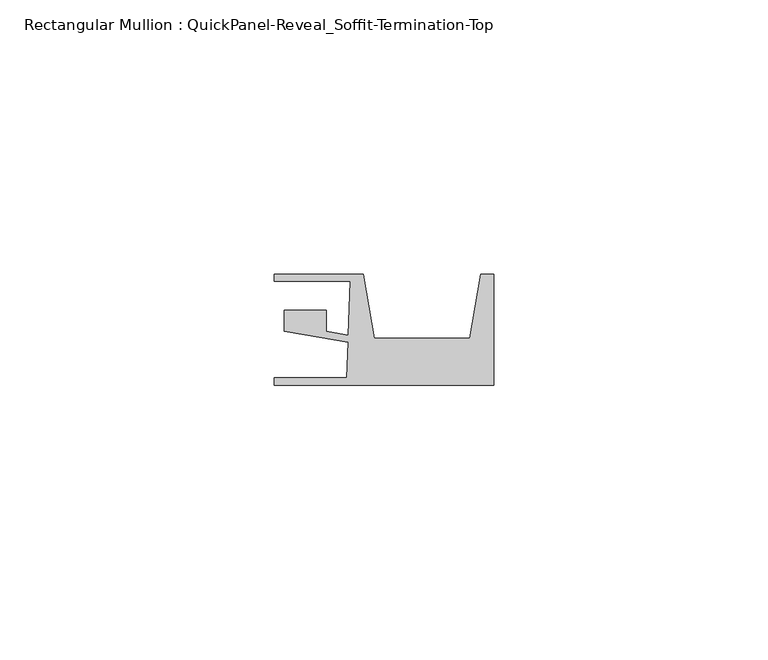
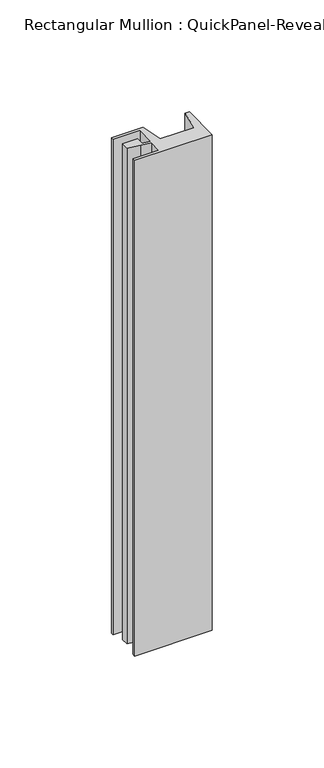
"""IFC4 building model written with IfcOpenShell, lengths in millimetres: member geometry, Rectangular Mullion : QuickPanel-Reveal_Soffit-Termination-Top."""

from ifc_helpers import new_model, si_unit, frame, origin, place, context, project, spatial, polyline, outline, extrude, source, transform, mapped, element, save


def rectangular_mullion_quickpanel_reveal_soffit_termination_top_08631cf9(model_context):
    return source(origin(), model_context, "Body", "SweptSolid", [
        extrude(outline(polyline([(-40.0272216, -8.095605), (-40.0272216, -6.6935423), (-26.7863089, -6.6935423), (-26.5595237, -0.1992641), (-31.8098046, 0.7008023), (-38.2451373, 1.8040245), (-38.2451373, 5.6493034), (-30.5003642, 5.6493034), (-30.5003642, 1.7648465), (-26.5147952, 1.0815922), (-26.1708682, 10.9303752), (-40.0272216, 10.9303752), (-40.0272216, 12.1803727), (-23.8142192, 12.1803727), (-21.8189903, 0.5417732), (-4.3518779, 0.5417732), (-2.3566489, 12.1803727), (0.0, 12.1803727), (0.0, -8.095605), (-40.0272216, -8.095605)])), frame((0.0, 0.0, -270.2913318), z_axis=(0.0, 0.0, 1.0), x_axis=(1.0, 0.0, 0.0)), (0.0, 0.0, 1.0), 270.2913318),
    ])


if __name__ == "__main__":
    model = new_model("IFC4")
    model_context = context("Model", 3, world=origin())
    ifc_project = project(units=[si_unit("LENGTHUNIT", "METRE", prefix="MILLI")], contexts=[model_context])
    site = spatial("IfcSite", under=ifc_project)
    building = spatial("IfcBuilding", under=site)
    placement = place(None, origin())
    rectangular_mullion_quickpanel_reveal_soffit_termination_top_shape = rectangular_mullion_quickpanel_reveal_soffit_termination_top_08631cf9(model_context)
    element("IfcMember", 1, ObjectType="Rectangular Mullion : QuickPanel-Reveal_Soffit-Termination-Top", at=placement, inside=building, context=model_context, shape_type="MappedRepresentation", body=[
        mapped(rectangular_mullion_quickpanel_reveal_soffit_termination_top_shape, transform((0.0, 0.0, 0.0), x_axis=(1.0, 0.0, 0.0), y_axis=(0.0, 1.0, 0.0), z_axis=(0.0, 0.0, 1.0))),
    ])
    save(model, "model.ifc")
